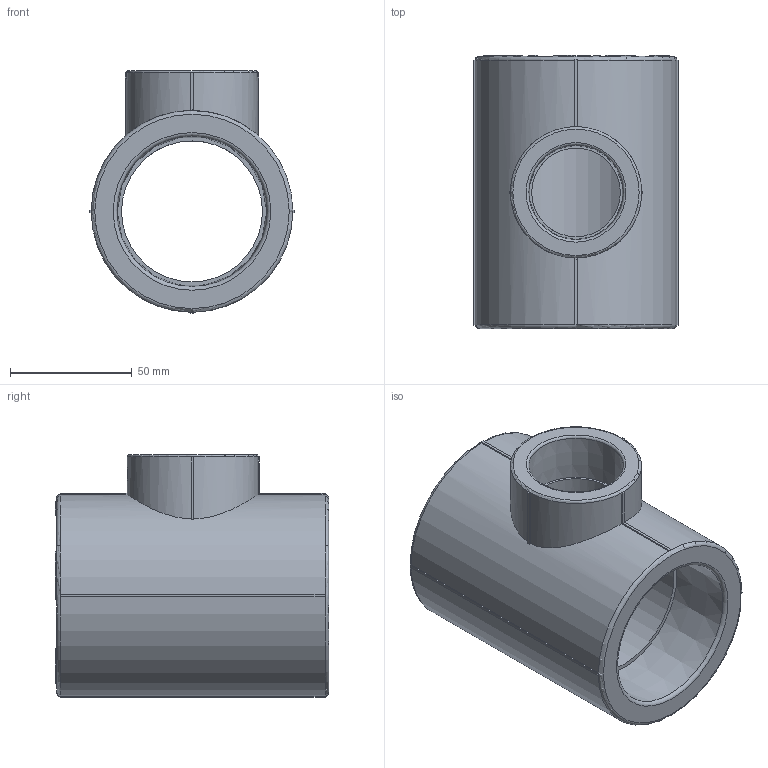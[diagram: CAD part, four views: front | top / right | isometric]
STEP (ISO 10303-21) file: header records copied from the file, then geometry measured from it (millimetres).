
FILE_DESCRIPTION(('STEP AP203'), '1');
FILE_NAME('ÂÐ.752241.070 - VTp.735.0.063040063', '', ('UNSPECIFIED'), ('UNSPECIFIED'), 'C3D Converter', 'C3D Toolkit', '');
FILE_SCHEMA(('CONFIG_CONTROL_DESIGN'));
Length unit declared in the file: millimetre
Products named in the file (1): ВР.752241.070
Bounding box: 84 x 112.5 x 100 mm (x, y, z)
Volume: 299040 mm3; surface area: 60800.8 mm2
Topology: 1 solids, 1 shells, 1131 faces, 3176 edges, 2109 vertices
Faces by surface type: extrusion 663, plane 424, cylinder 35, torus 6, cone 3
Full cylindrical faces by diameter (mm): 8 x1, 36.5 x1, 58 x1
Entity records: 42024 total; most frequent: CARTESIAN_POINT 16303, ORIENTED_EDGE 6328, DIRECTION 3187, EDGE_CURVE 3164, VECTOR 2159, VERTEX_POINT 2109, B_SPLINE_CURVE_WITH_KNOTS 1995, LINE 1496
